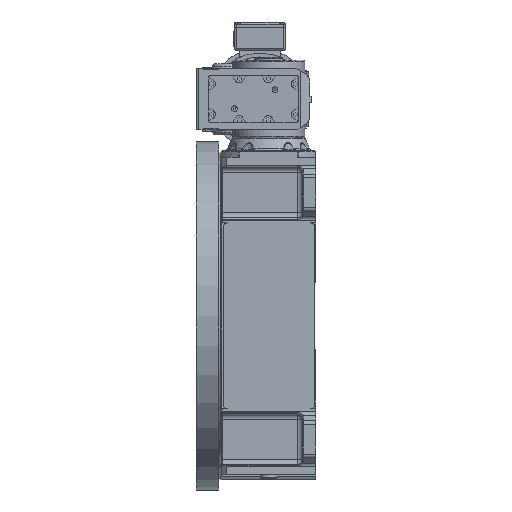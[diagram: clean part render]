
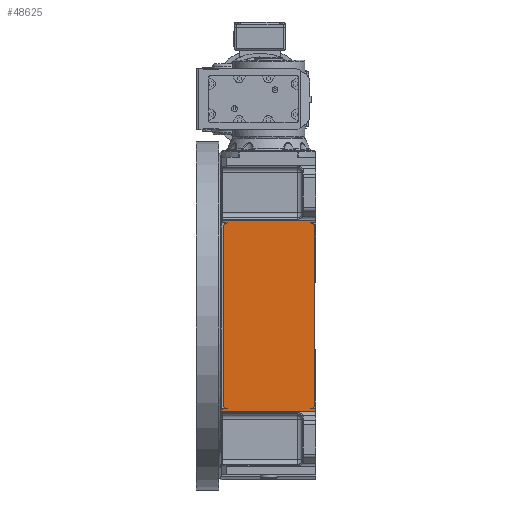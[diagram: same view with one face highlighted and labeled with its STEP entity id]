
A CAD part, left-side view. The second image highlights one B-rep face of the part: STEP entity #48625.
In plain terms, the highlighted planar face has unit normal (-1, 0, 0).
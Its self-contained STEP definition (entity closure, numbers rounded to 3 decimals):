
#2030=CARTESIAN_POINT('',(-500.,15.,-275.));
#2031=VERTEX_POINT('',#2030);
#2040=CARTESIAN_POINT('',(-500.,0.01,-275.));
#2041=VERTEX_POINT('',#2040);
#2042=CARTESIAN_POINT('',(-500.,0.01,-275.));
#2043=DIRECTION('',(0.0,1.0,0.0));
#2044=VECTOR('',#2043,14.99);
#2045=LINE('',#2042,#2044);
#2046=EDGE_CURVE('',#2041,#2031,#2045,.T.);
#2070=CARTESIAN_POINT('',(-500.,263.,-275.));
#2071=VERTEX_POINT('',#2070);
#2096=CARTESIAN_POINT('',(-500.,277.01,-275.));
#2097=VERTEX_POINT('',#2096);
#2105=CARTESIAN_POINT('',(-500.,263.,-275.));
#2106=DIRECTION('',(0.0,1.0,0.0));
#2107=VECTOR('',#2106,14.01);
#2108=LINE('',#2105,#2107);
#2109=EDGE_CURVE('',#2071,#2097,#2108,.T.);
#2119=CARTESIAN_POINT('',(-500.0,15.,275.));
#2120=VERTEX_POINT('',#2119);
#2137=CARTESIAN_POINT('',(-500.,0.01,275.));
#2138=VERTEX_POINT('',#2137);
#2145=CARTESIAN_POINT('',(-500.,15.,275.));
#2146=DIRECTION('',(0.0,-1.0,0.0));
#2147=VECTOR('',#2146,14.99);
#2148=LINE('',#2145,#2147);
#2149=EDGE_CURVE('',#2120,#2138,#2148,.T.);
#7294=CARTESIAN_POINT('',(-500.0,263.,275.));
#7295=VERTEX_POINT('',#7294);
#7302=CARTESIAN_POINT('',(-500.,277.01,275.));
#7303=VERTEX_POINT('',#7302);
#7304=CARTESIAN_POINT('',(-500.,277.01,275.));
#7305=DIRECTION('',(0.0,-1.0,0.0));
#7306=VECTOR('',#7305,14.01);
#7307=LINE('',#7304,#7306);
#7308=EDGE_CURVE('',#7303,#7295,#7307,.T.);
#7335=CARTESIAN_POINT('',(-500.,277.01,281.34));
#7336=VERTEX_POINT('',#7335);
#7337=CARTESIAN_POINT('',(-500.,277.01,275.));
#7338=DIRECTION('',(0.0,0.0,1.0));
#7339=VECTOR('',#7338,6.34);
#7340=LINE('',#7337,#7339);
#7341=EDGE_CURVE('',#7303,#7336,#7340,.T.);
#10602=CARTESIAN_POINT('',(-500.,0.01,-281.34));
#10603=VERTEX_POINT('',#10602);
#10604=CARTESIAN_POINT('',(-500.,0.01,-281.34));
#10605=DIRECTION('',(0.0,0.0,1.0));
#10606=VECTOR('',#10605,6.34);
#10607=LINE('',#10604,#10606);
#10608=EDGE_CURVE('',#10603,#2041,#10607,.T.);
#11258=CARTESIAN_POINT('',(-500.,277.01,-281.34));
#11259=VERTEX_POINT('',#11258);
#11260=CARTESIAN_POINT('',(-500.,0.01,-281.34));
#11261=DIRECTION('',(0.0,1.0,0.0));
#11262=VECTOR('',#11261,277.);
#11263=LINE('',#11260,#11262);
#11264=EDGE_CURVE('',#10603,#11259,#11263,.T.);
#19905=CARTESIAN_POINT('',(-500.,277.01,-281.34));
#19906=DIRECTION('',(0.0,0.0,1.0));
#19907=VECTOR('',#19906,6.34);
#19908=LINE('',#19905,#19907);
#19909=EDGE_CURVE('',#11259,#2097,#19908,.T.);
#22321=CARTESIAN_POINT('',(-500.,0.01,281.34));
#22322=VERTEX_POINT('',#22321);
#22334=CARTESIAN_POINT('',(-500.,277.01,281.34));
#22335=DIRECTION('',(0.0,-1.0,0.0));
#22336=VECTOR('',#22335,277.);
#22337=LINE('',#22334,#22336);
#22338=EDGE_CURVE('',#7336,#22322,#22337,.T.);
#48471=CARTESIAN_POINT('',(-500.,273.0,-265.));
#48472=VERTEX_POINT('',#48471);
#48473=CARTESIAN_POINT('',(-500.,263.,-265.));
#48474=DIRECTION('',(-1.0,0.0,0.0));
#48475=DIRECTION('',(0.0,0.0,1.0));
#48476=AXIS2_PLACEMENT_3D('',#48473,#48474,#48475);
#48477=CIRCLE('',#48476,10.);
#48478=EDGE_CURVE('',#48472,#2071,#48477,.T.);
#48505=CARTESIAN_POINT('',(-500.,5.,-265.));
#48506=VERTEX_POINT('',#48505);
#48513=CARTESIAN_POINT('',(-500.,15.,-265.));
#48514=DIRECTION('',(-1.0,0.0,0.0));
#48515=DIRECTION('',(0.0,0.0,1.0));
#48516=AXIS2_PLACEMENT_3D('',#48513,#48514,#48515);
#48517=CIRCLE('',#48516,10.);
#48518=EDGE_CURVE('',#2031,#48506,#48517,.T.);
#48571=CARTESIAN_POINT('',(-500.,263.,-265.));
#48572=DIRECTION('',(-1.0,0.0,0.0));
#48573=DIRECTION('',(0.0,0.0,1.0));
#48574=AXIS2_PLACEMENT_3D('',#48571,#48572,#48573);
#48575=PLANE('',#48574);
#48576=ORIENTED_EDGE('',*,*,#48478,.T.);
#48577=ORIENTED_EDGE('',*,*,#2109,.T.);
#48578=ORIENTED_EDGE('',*,*,#19909,.F.);
#48579=ORIENTED_EDGE('',*,*,#11264,.F.);
#48580=ORIENTED_EDGE('',*,*,#10608,.T.);
#48581=ORIENTED_EDGE('',*,*,#2046,.T.);
#48582=ORIENTED_EDGE('',*,*,#48518,.T.);
#48583=CARTESIAN_POINT('',(-500.0,5.0,265.));
#48584=VERTEX_POINT('',#48583);
#48585=CARTESIAN_POINT('',(-500.,5.,-265.));
#48586=DIRECTION('',(0.0,0.0,1.0));
#48587=VECTOR('',#48586,530.0);
#48588=LINE('',#48585,#48587);
#48589=EDGE_CURVE('',#48506,#48584,#48588,.T.);
#48590=ORIENTED_EDGE('',*,*,#48589,.T.);
#48591=CARTESIAN_POINT('',(-500.0,15.,265.));
#48592=DIRECTION('',(-1.0,0.0,0.0));
#48593=DIRECTION('',(0.0,0.0,1.0));
#48594=AXIS2_PLACEMENT_3D('',#48591,#48592,#48593);
#48595=CIRCLE('',#48594,10.);
#48596=EDGE_CURVE('',#48584,#2120,#48595,.T.);
#48597=ORIENTED_EDGE('',*,*,#48596,.T.);
#48598=ORIENTED_EDGE('',*,*,#2149,.T.);
#48599=CARTESIAN_POINT('',(-500.,0.01,275.));
#48600=DIRECTION('',(0.0,0.0,1.0));
#48601=VECTOR('',#48600,6.34);
#48602=LINE('',#48599,#48601);
#48603=EDGE_CURVE('',#2138,#22322,#48602,.T.);
#48604=ORIENTED_EDGE('',*,*,#48603,.T.);
#48605=ORIENTED_EDGE('',*,*,#22338,.F.);
#48606=ORIENTED_EDGE('',*,*,#7341,.F.);
#48607=ORIENTED_EDGE('',*,*,#7308,.T.);
#48608=CARTESIAN_POINT('',(-500.0,273.,265.));
#48609=VERTEX_POINT('',#48608);
#48610=CARTESIAN_POINT('',(-500.0,263.,265.));
#48611=DIRECTION('',(-1.0,0.0,0.0));
#48612=DIRECTION('',(0.0,0.0,-1.0));
#48613=AXIS2_PLACEMENT_3D('',#48610,#48611,#48612);
#48614=CIRCLE('',#48613,10.);
#48615=EDGE_CURVE('',#7295,#48609,#48614,.T.);
#48616=ORIENTED_EDGE('',*,*,#48615,.T.);
#48617=CARTESIAN_POINT('',(-500.,273.0,265.));
#48618=DIRECTION('',(0.0,0.0,-1.0));
#48619=VECTOR('',#48618,530.0);
#48620=LINE('',#48617,#48619);
#48621=EDGE_CURVE('',#48609,#48472,#48620,.T.);
#48622=ORIENTED_EDGE('',*,*,#48621,.T.);
#48623=EDGE_LOOP('',(#48576,#48577,#48578,#48579,#48580,#48581,#48582,#48590,#48597,#48598,#48604,#48605,#48606,#48607,#48616,#48622));
#48624=FACE_OUTER_BOUND('',#48623,.T.);
#48625=ADVANCED_FACE('',(#48624),#48575,.T.);
